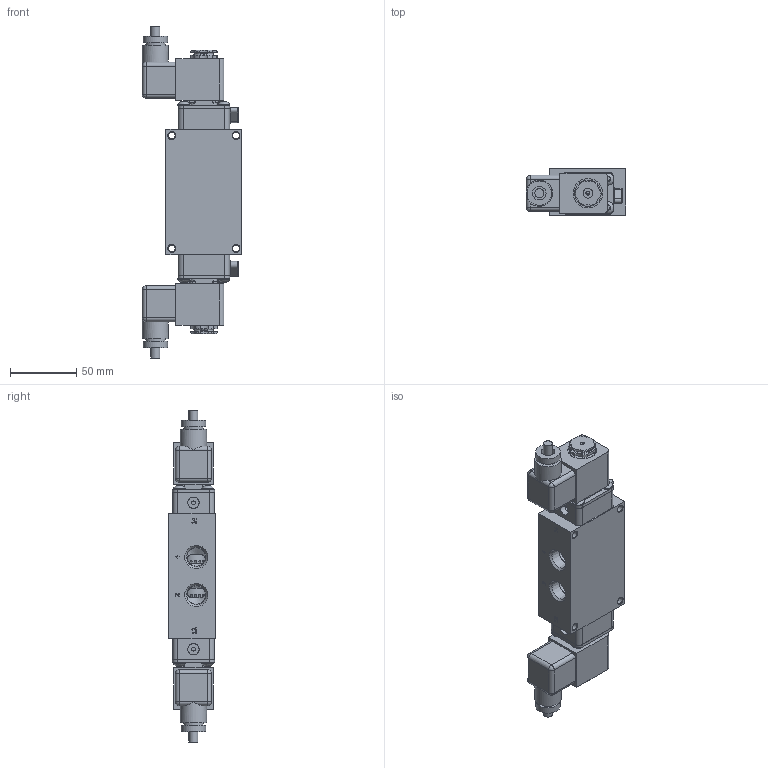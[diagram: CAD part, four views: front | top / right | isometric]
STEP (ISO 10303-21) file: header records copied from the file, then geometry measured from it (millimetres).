
FILE_DESCRIPTION(/* description */ (''),/* implementation_level */ '2;1');
FILE_NAME(/* name */ 'ZESS3TOCZ.stp',/* time_stamp */ '2026-09-29T22:08:12-04:00',/* author */ ('rmckenna'),/* organization */ (''),/* preprocessor_version */ 'ST-DEVELOPER v20.2',/* originating_system */ 'Autodesk Inventor 2027',/* authorisation */ '');
FILE_SCHEMA (('AUTOMOTIVE_DESIGN { 1 0 10303 214 3 1 1 }'));
Products named in the file (1): Part218
Bounding box: 75.06 x 34.92 x 250.03 mm (x, y, z)
Volume: 303131.9 mm3; surface area: 95153.4 mm2
Topology: 3 solids, 33 shells, 2065 faces, 5076 edges, 3228 vertices
Faces by surface type: plane 940, cylinder 602, cone 266, torus 145, bspline 96, sphere 16
Full cylindrical faces by diameter (mm): 1.168 x20, 1.3 x2, 1.397 x2, 1.5 x2, 2.032 x16, 2.35 x8, 2.5 x2, 2.8 x2, 3 x8, 3.048 x1, 3.4 x2, 3.683 x10, 4.191 x4, 4.394 x1, 4.826 x8, 5.15 x8, 5.156 x12, 5.5 x2, 6.65 x2, 6.731 x2, 7.29 x2, 7.9 x2, 8 x4, 8.433 x2, 8.6 x4, 9.144 x4, 9.169 x8, 9.922 x2, 10 x2, 10.16 x2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
Entity records: 68708 total; most frequent: CARTESIAN_POINT 17597, DIRECTION 10231, ORIENTED_EDGE 10110, EDGE_CURVE 5055, AXIS2_PLACEMENT_3D 3833, VERTEX_POINT 3226, LINE 2565, VECTOR 2565
